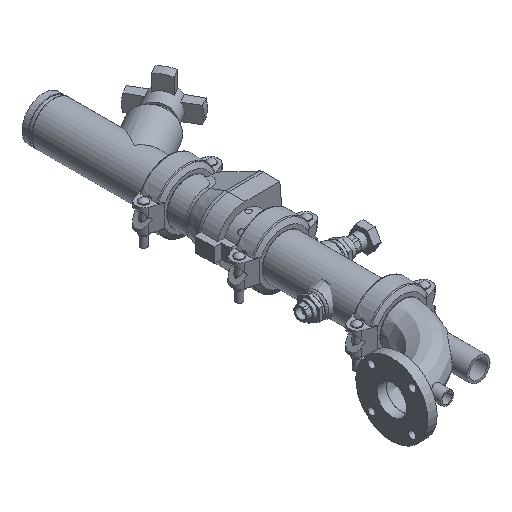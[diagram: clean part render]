
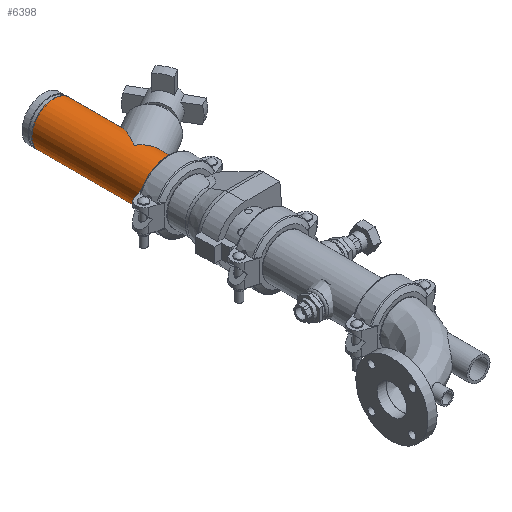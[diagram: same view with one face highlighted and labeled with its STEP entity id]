
A CAD part, isometric view. The second image highlights one B-rep face of the part: STEP entity #6398.
In plain terms, the highlighted cylindrical face has radius 57.15 mm (diameter 114.3 mm), a full revolution.
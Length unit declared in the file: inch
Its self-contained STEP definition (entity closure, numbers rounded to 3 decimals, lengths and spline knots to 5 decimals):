
#128=ELLIPSE('',#6977,4.5,2.25);
#129=ELLIPSE('',#6978,2.59808,2.25);
#130=ELLIPSE('',#6981,2.59808,2.25);
#131=ELLIPSE('',#6982,4.5,2.25);
#218=LINE('',#9820,#690);
#219=LINE('',#9826,#691);
#690=VECTOR('',#7858,2.25);
#691=VECTOR('',#7863,2.25);
#1133=CYLINDRICAL_SURFACE('',#6974,2.25);
#1342=FACE_OUTER_BOUND('',#1702,.T.);
#1702=EDGE_LOOP('',(#4128,#4129,#4130,#4131,#4132,#4133,#4134,#4135,#4136,
#4137,#4138,#4139));
#2135=CIRCLE('',#6975,2.25);
#2136=CIRCLE('',#6976,2.25);
#2137=CIRCLE('',#6979,2.25);
#2138=CIRCLE('',#6980,2.25);
#2513=VERTEX_POINT('',#9815);
#2514=VERTEX_POINT('',#9816);
#2515=VERTEX_POINT('',#9819);
#2516=VERTEX_POINT('',#9821);
#2517=VERTEX_POINT('',#9823);
#2518=VERTEX_POINT('',#9825);
#2519=VERTEX_POINT('',#9827);
#2520=VERTEX_POINT('',#9830);
#3152=EDGE_CURVE('',#2513,#2514,#2135,.T.);
#3153=EDGE_CURVE('',#2514,#2513,#2136,.T.);
#3154=EDGE_CURVE('',#2514,#2515,#218,.T.);
#3155=EDGE_CURVE('',#2515,#2516,#128,.T.);
#3156=EDGE_CURVE('',#2516,#2517,#129,.T.);
#3157=EDGE_CURVE('',#2517,#2518,#219,.T.);
#3158=EDGE_CURVE('',#2518,#2519,#2137,.T.);
#3159=EDGE_CURVE('',#2519,#2518,#2138,.T.);
#3160=EDGE_CURVE('',#2517,#2520,#130,.T.);
#3161=EDGE_CURVE('',#2520,#2515,#131,.T.);
#4128=ORIENTED_EDGE('',*,*,#3152,.F.);
#4129=ORIENTED_EDGE('',*,*,#3153,.F.);
#4130=ORIENTED_EDGE('',*,*,#3154,.T.);
#4131=ORIENTED_EDGE('',*,*,#3155,.T.);
#4132=ORIENTED_EDGE('',*,*,#3156,.T.);
#4133=ORIENTED_EDGE('',*,*,#3157,.T.);
#4134=ORIENTED_EDGE('',*,*,#3158,.T.);
#4135=ORIENTED_EDGE('',*,*,#3159,.T.);
#4136=ORIENTED_EDGE('',*,*,#3157,.F.);
#4137=ORIENTED_EDGE('',*,*,#3160,.T.);
#4138=ORIENTED_EDGE('',*,*,#3161,.T.);
#4139=ORIENTED_EDGE('',*,*,#3154,.F.);
#6398=ADVANCED_FACE('',(#1342),#1133,.T.);
#6974=AXIS2_PLACEMENT_3D('',#9814,#7852,#7853);
#6975=AXIS2_PLACEMENT_3D('',#9817,#7854,#7855);
#6976=AXIS2_PLACEMENT_3D('',#9818,#7856,#7857);
#6977=AXIS2_PLACEMENT_3D('',#9822,#7859,#7860);
#6978=AXIS2_PLACEMENT_3D('',#9824,#7861,#7862);
#6979=AXIS2_PLACEMENT_3D('',#9828,#7864,#7865);
#6980=AXIS2_PLACEMENT_3D('',#9829,#7866,#7867);
#6981=AXIS2_PLACEMENT_3D('',#9831,#7868,#7869);
#6982=AXIS2_PLACEMENT_3D('',#9832,#7870,#7871);
#7852=DIRECTION('center_axis',(1.,0.,0.));
#7853=DIRECTION('ref_axis',(0.,1.,0.));
#7854=DIRECTION('center_axis',(1.,0.,0.));
#7855=DIRECTION('ref_axis',(0.,0.,-1.));
#7856=DIRECTION('center_axis',(1.,0.,0.));
#7857=DIRECTION('ref_axis',(0.,0.,-1.));
#7858=DIRECTION('',(-1.,0.,0.));
#7859=DIRECTION('center_axis',(0.5,0.866,0.));
#7860=DIRECTION('ref_axis',(-0.866,0.5,0.));
#7861=DIRECTION('center_axis',(-0.866,0.5,0.));
#7862=DIRECTION('ref_axis',(-0.5,-0.866,0.));
#7863=DIRECTION('',(-1.,0.,0.));
#7864=DIRECTION('center_axis',(1.,0.,0.));
#7865=DIRECTION('ref_axis',(0.,0.,-1.));
#7866=DIRECTION('center_axis',(1.,0.,0.));
#7867=DIRECTION('ref_axis',(0.,0.,-1.));
#7868=DIRECTION('center_axis',(-0.866,0.5,0.));
#7869=DIRECTION('ref_axis',(-0.5,-0.866,0.));
#7870=DIRECTION('center_axis',(0.5,0.866,0.));
#7871=DIRECTION('ref_axis',(-0.866,0.5,0.));
#9814=CARTESIAN_POINT('Origin',(0.,0.,0.));
#9815=CARTESIAN_POINT('',(5.875,2.25,0.));
#9816=CARTESIAN_POINT('',(5.875,-2.25,0.));
#9817=CARTESIAN_POINT('Origin',(5.875,0.,0.));
#9818=CARTESIAN_POINT('Origin',(5.875,0.,0.));
#9819=CARTESIAN_POINT('',(1.35625,-2.25,0.));
#9820=CARTESIAN_POINT('',(0.,-2.25,0.));
#9821=CARTESIAN_POINT('',(-2.54086,0.,-2.25));
#9822=CARTESIAN_POINT('Origin',(-2.54086,0.,
0.));
#9823=CARTESIAN_POINT('',(-3.8399,-2.25,0.));
#9824=CARTESIAN_POINT('Origin',(-2.54086,0.,
0.));
#9825=CARTESIAN_POINT('',(-5.875,-2.25,0.));
#9826=CARTESIAN_POINT('',(0.,-2.25,0.));
#9827=CARTESIAN_POINT('',(-5.875,2.25,0.));
#9828=CARTESIAN_POINT('Origin',(-5.875,0.,0.));
#9829=CARTESIAN_POINT('Origin',(-5.875,0.,0.));
#9830=CARTESIAN_POINT('',(-2.54086,0.,2.25));
#9831=CARTESIAN_POINT('Origin',(-2.54086,0.,
0.));
#9832=CARTESIAN_POINT('Origin',(-2.54086,0.,
0.));
